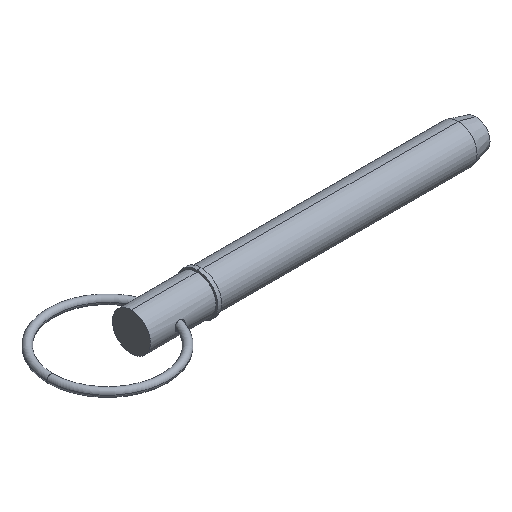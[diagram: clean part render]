
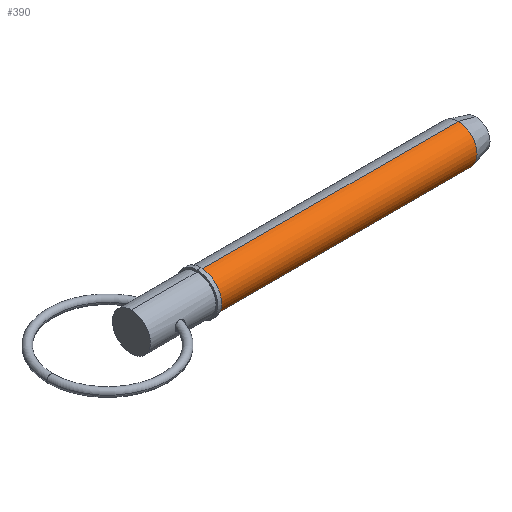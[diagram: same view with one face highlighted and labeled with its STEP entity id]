
A CAD part, isometric view. The second image highlights one B-rep face of the part: STEP entity #390.
In plain terms, the highlighted cylindrical face has radius 9.525 mm (diameter 19.05 mm), a partial arc.
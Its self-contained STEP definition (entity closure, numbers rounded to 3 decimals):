
#8 = CARTESIAN_POINT ( 'NONE',  ( 0., 0., -9.525 ) ) ;
#65 = VERTEX_POINT ( 'NONE', #686 ) ;
#90 = CIRCLE ( 'NONE', #930, 9.525 ) ;
#119 = CARTESIAN_POINT ( 'NONE',  ( 0., 0., 9.525 ) ) ;
#129 = AXIS2_PLACEMENT_3D ( 'NONE', #693, #283, #869 ) ;
#170 = EDGE_CURVE ( 'NONE', #858, #505, #423, .T. ) ;
#187 = ORIENTED_EDGE ( 'NONE', *, *, #707, .T. ) ;
#197 = DIRECTION ( 'NONE',  ( 1., 0., 0. ) ) ;
#214 = FACE_OUTER_BOUND ( 'NONE', #974, .T. ) ;
#221 = DIRECTION ( 'NONE',  ( 0., 0., -1. ) ) ;
#240 = EDGE_CURVE ( 'NONE', #65, #717, #556, .T. ) ;
#244 = CARTESIAN_POINT ( 'NONE',  ( 34.93, 0., 0. ) ) ;
#247 = CARTESIAN_POINT ( 'NONE',  ( 164.143, 0., 9.525 ) ) ;
#270 = VECTOR ( 'NONE', #769, 1000. ) ;
#283 = DIRECTION ( 'NONE',  ( 1., 0., 0. ) ) ;
#374 = AXIS2_PLACEMENT_3D ( 'NONE', #244, #569, #736 ) ;
#382 = CARTESIAN_POINT ( 'NONE',  ( 164.143, 0., 0. ) ) ;
#390 = ADVANCED_FACE ( 'NONE', ( #214 ), #697, .T. ) ;
#401 = ORIENTED_EDGE ( 'NONE', *, *, #991, .F. ) ;
#423 = LINE ( 'NONE', #8, #270 ) ;
#444 = VECTOR ( 'NONE', #197, 1000. ) ;
#505 = VERTEX_POINT ( 'NONE', #784 ) ;
#556 = LINE ( 'NONE', #119, #444 ) ;
#562 = ORIENTED_EDGE ( 'NONE', *, *, #240, .F. ) ;
#569 = DIRECTION ( 'NONE',  ( 1., 0., 0. ) ) ;
#609 = ORIENTED_EDGE ( 'NONE', *, *, #170, .T. ) ;
#686 = CARTESIAN_POINT ( 'NONE',  ( 34.93, 0., 9.525 ) ) ;
#693 = CARTESIAN_POINT ( 'NONE',  ( 0., 0., 0. ) ) ;
#697 = CYLINDRICAL_SURFACE ( 'NONE', #129, 9.525 ) ;
#707 = EDGE_CURVE ( 'NONE', #65, #858, #977, .T. ) ;
#713 = DIRECTION ( 'NONE',  ( 1., 0., 0. ) ) ;
#717 = VERTEX_POINT ( 'NONE', #247 ) ;
#736 = DIRECTION ( 'NONE',  ( 0., 0., -1. ) ) ;
#769 = DIRECTION ( 'NONE',  ( 1., 0., 0. ) ) ;
#778 = CARTESIAN_POINT ( 'NONE',  ( 34.93, 0., -9.525 ) ) ;
#784 = CARTESIAN_POINT ( 'NONE',  ( 164.143, 0., -9.525 ) ) ;
#858 = VERTEX_POINT ( 'NONE', #778 ) ;
#869 = DIRECTION ( 'NONE',  ( 0., 0., -1. ) ) ;
#930 = AXIS2_PLACEMENT_3D ( 'NONE', #382, #713, #221 ) ;
#974 = EDGE_LOOP ( 'NONE', ( #562, #187, #609, #401 ) ) ;
#977 = CIRCLE ( 'NONE', #374, 9.525 ) ;
#991 = EDGE_CURVE ( 'NONE', #717, #505, #90, .T. ) ;
